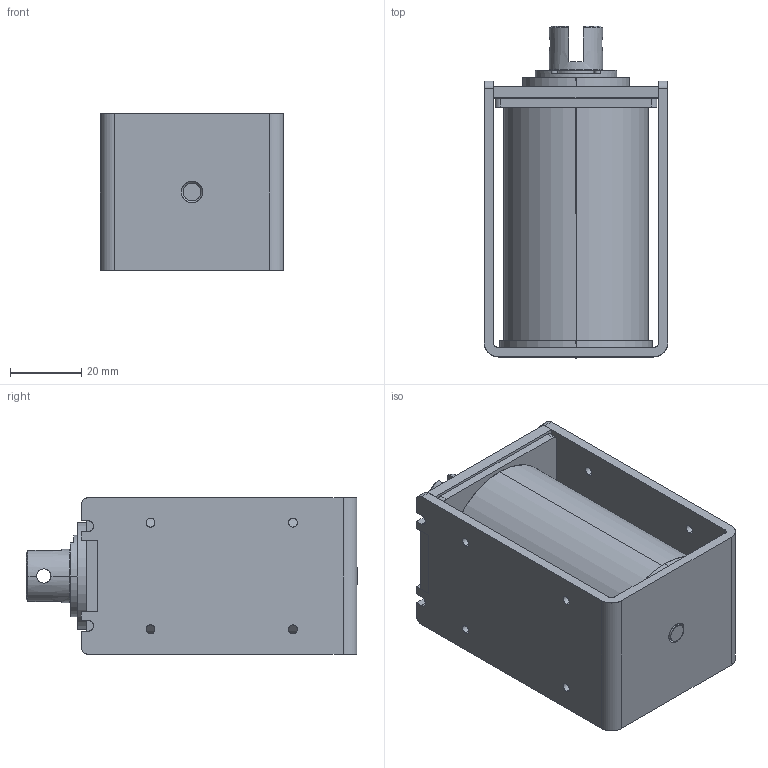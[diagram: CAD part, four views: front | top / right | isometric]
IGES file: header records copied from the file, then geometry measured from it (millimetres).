
Start section: SolidWorks IGES file using analytic representation for surfaces
Global section: file name: L:\カタログ\web用3Dデータ\CA1578\3D_CA1578\w_ca1578.IGS; native system: SolidWorks 2014; preprocessor: SolidWorks 2014; author: jiba; date: 140714.134223; units: millimetre
Bounding box: 51.5 x 93.3 x 44 mm (x, y, z)
Surface area: 48551.6 mm2 (no closed solid volume)
Topology: 0 solids, 0 shells, 182 faces, 3581 edges, 3581 vertices
Faces by surface type: revolution 96, bspline 86
